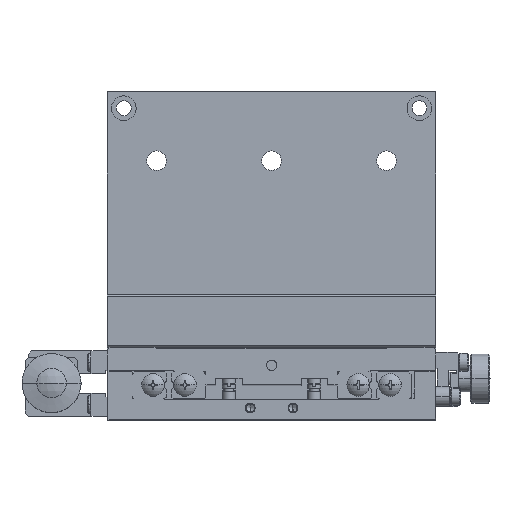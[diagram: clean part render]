
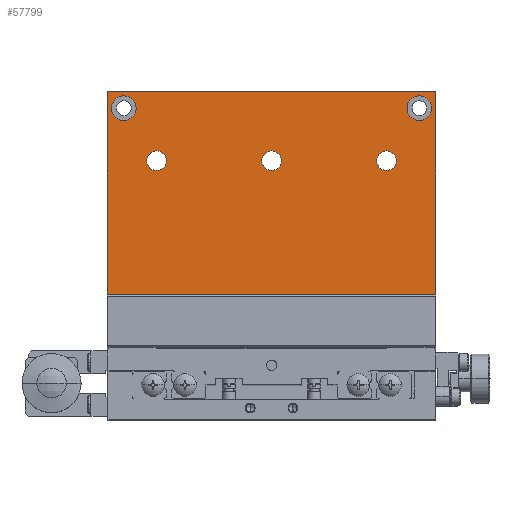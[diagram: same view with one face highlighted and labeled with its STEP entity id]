
A CAD part, top view. The second image highlights one B-rep face of the part: STEP entity #57799.
In plain terms, the highlighted planar face has unit normal (0, 0, 1) as drawn and (0, 1, 0) by its records, which use the part's own axes.
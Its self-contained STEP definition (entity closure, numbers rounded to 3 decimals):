
#79 = EDGE_CURVE ( 'NONE', #59533, #59516, #41371, .T. ) ;
#198 = VERTEX_POINT ( 'NONE', #41610 ) ;
#202 = EDGE_CURVE ( 'NONE', #198, #59000, #41603, .T. ) ;
#6496 = EDGE_CURVE ( 'NONE', #6587, #6685, #13323, .T. ) ;
#6587 = VERTEX_POINT ( 'NONE', #13498 ) ;
#6685 = VERTEX_POINT ( 'NONE', #13672 ) ;
#7025 = VERTEX_POINT ( 'NONE', #14294 ) ;
#7050 = VERTEX_POINT ( 'NONE', #14320 ) ;
#7099 = VERTEX_POINT ( 'NONE', #14412 ) ;
#7115 = VERTEX_POINT ( 'NONE', #14455 ) ;
#7149 = EDGE_CURVE ( 'NONE', #7050, #7025, #14524, .T. ) ;
#7176 = EDGE_CURVE ( 'NONE', #7115, #7099, #14590, .T. ) ;
#7342 = EDGE_CURVE ( 'NONE', #7343, #7411, #14921, .T. ) ;
#7343 = VERTEX_POINT ( 'NONE', #14916 ) ;
#7379 = EDGE_CURVE ( 'NONE', #7487, #7484, #14979, .T. ) ;
#7411 = VERTEX_POINT ( 'NONE', #15043 ) ;
#7484 = VERTEX_POINT ( 'NONE', #15176 ) ;
#7487 = VERTEX_POINT ( 'NONE', #15178 ) ;
#13319 = DIRECTION ( 'NONE',  ( -1., 0., 0. ) ) ;
#13320 = DIRECTION ( 'NONE',  ( 0., -1., 0. ) ) ;
#13321 = CARTESIAN_POINT ( 'NONE',  ( 35., 0., -59. ) ) ;
#13322 = AXIS2_PLACEMENT_3D ( 'NONE', #13321, #13320, #13319 ) ;
#13323 = CIRCLE ( 'NONE', #13322, 3. ) ;
#13498 = CARTESIAN_POINT ( 'NONE',  ( 38., 0., -59. ) ) ;
#13672 = CARTESIAN_POINT ( 'NONE',  ( 32., 0., -59. ) ) ;
#14294 = CARTESIAN_POINT ( 'NONE',  ( 41.25, 0., -75. ) ) ;
#14320 = CARTESIAN_POINT ( 'NONE',  ( 48.75, 0., -75. ) ) ;
#14412 = CARTESIAN_POINT ( 'NONE',  ( -48.75, 0., -75. ) ) ;
#14455 = CARTESIAN_POINT ( 'NONE',  ( -41.25, 0., -75. ) ) ;
#14520 = DIRECTION ( 'NONE',  ( -1., 0., 0. ) ) ;
#14521 = DIRECTION ( 'NONE',  ( 0., -1., 0. ) ) ;
#14522 = CARTESIAN_POINT ( 'NONE',  ( 45., 0., -75. ) ) ;
#14523 = AXIS2_PLACEMENT_3D ( 'NONE', #14522, #14521, #14520 ) ;
#14524 = CIRCLE ( 'NONE', #14523, 3.75 ) ;
#14586 = DIRECTION ( 'NONE',  ( -1., 0., 0. ) ) ;
#14587 = DIRECTION ( 'NONE',  ( 0., -1., 0. ) ) ;
#14588 = CARTESIAN_POINT ( 'NONE',  ( -45., 0., -75. ) ) ;
#14589 = AXIS2_PLACEMENT_3D ( 'NONE', #14588, #14587, #14586 ) ;
#14590 = CIRCLE ( 'NONE', #14589, 3.75 ) ;
#14916 = CARTESIAN_POINT ( 'NONE',  ( 3., 0., -59. ) ) ;
#14917 = DIRECTION ( 'NONE',  ( -1., 0., 0. ) ) ;
#14918 = DIRECTION ( 'NONE',  ( 0., -1., 0. ) ) ;
#14919 = CARTESIAN_POINT ( 'NONE',  ( 0., 0., -59. ) ) ;
#14920 = AXIS2_PLACEMENT_3D ( 'NONE', #14919, #14918, #14917 ) ;
#14921 = CIRCLE ( 'NONE', #14920, 3. ) ;
#14975 = DIRECTION ( 'NONE',  ( -1., 0., 0. ) ) ;
#14976 = DIRECTION ( 'NONE',  ( 0., -1., 0. ) ) ;
#14977 = CARTESIAN_POINT ( 'NONE',  ( -35., 0., -59. ) ) ;
#14978 = AXIS2_PLACEMENT_3D ( 'NONE', #14977, #14976, #14975 ) ;
#14979 = CIRCLE ( 'NONE', #14978, 3. ) ;
#15043 = CARTESIAN_POINT ( 'NONE',  ( -3., 0., -59. ) ) ;
#15176 = CARTESIAN_POINT ( 'NONE',  ( -38., 0., -59. ) ) ;
#15178 = CARTESIAN_POINT ( 'NONE',  ( -32., 0., -59. ) ) ;
#37282 = DIRECTION ( 'NONE',  ( -1., 0., 0. ) ) ;
#37283 = DIRECTION ( 'NONE',  ( 0., -1., 0. ) ) ;
#37284 = CARTESIAN_POINT ( 'NONE',  ( -45., 0., -75. ) ) ;
#37285 = AXIS2_PLACEMENT_3D ( 'NONE', #37284, #37283, #37282 ) ;
#37286 = CIRCLE ( 'NONE', #37285, 3.75 ) ;
#37313 = DIRECTION ( 'NONE',  ( 0., 0., 1. ) ) ;
#37314 = DIRECTION ( 'NONE',  ( 0., 1., 0. ) ) ;
#37315 = CARTESIAN_POINT ( 'NONE',  ( 50., 0., -80. ) ) ;
#37316 = AXIS2_PLACEMENT_3D ( 'NONE', #37315, #37314, #37313 ) ;
#37317 = PLANE ( 'NONE',  #37316 ) ;
#37318 = FACE_OUTER_BOUND ( 'NONE', #57886, .T. ) ;
#37319 = FACE_BOUND ( 'NONE', #57781, .T. ) ;
#37320 = FACE_BOUND ( 'NONE', #57852, .T. ) ;
#37321 = FACE_BOUND ( 'NONE', #57842, .T. ) ;
#37322 = FACE_BOUND ( 'NONE', #57815, .T. ) ;
#37323 = FACE_BOUND ( 'NONE', #57801, .T. ) ;
#37354 = DIRECTION ( 'NONE',  ( -1., 0., 0. ) ) ;
#37355 = DIRECTION ( 'NONE',  ( 0., -1., 0. ) ) ;
#37356 = CARTESIAN_POINT ( 'NONE',  ( -35., 0., -59. ) ) ;
#37357 = AXIS2_PLACEMENT_3D ( 'NONE', #37356, #37355, #37354 ) ;
#37358 = CIRCLE ( 'NONE', #37357, 3. ) ;
#37369 = CARTESIAN_POINT ( 'NONE',  ( 0., 0., -59. ) ) ;
#37370 = AXIS2_PLACEMENT_3D ( 'NONE', #37369, #37430, #37429 ) ;
#37371 = CIRCLE ( 'NONE', #37370, 3. ) ;
#37397 = DIRECTION ( 'NONE',  ( -1., 0., 0. ) ) ;
#37398 = VECTOR ( 'NONE', #37397, 1000. ) ;
#37399 = CARTESIAN_POINT ( 'NONE',  ( 50., 0., -80. ) ) ;
#37400 = LINE ( 'NONE', #37399, #37398 ) ;
#37405 = DIRECTION ( 'NONE',  ( -1., 0., 0. ) ) ;
#37406 = DIRECTION ( 'NONE',  ( 0., -1., 0. ) ) ;
#37407 = CARTESIAN_POINT ( 'NONE',  ( 45., 0., -75. ) ) ;
#37408 = AXIS2_PLACEMENT_3D ( 'NONE', #37407, #37406, #37405 ) ;
#37409 = CIRCLE ( 'NONE', #37408, 3.75 ) ;
#37415 = DIRECTION ( 'NONE',  ( -1., 0., 0. ) ) ;
#37416 = DIRECTION ( 'NONE',  ( 0., -1., 0. ) ) ;
#37417 = CARTESIAN_POINT ( 'NONE',  ( 35., 0., -59. ) ) ;
#37418 = AXIS2_PLACEMENT_3D ( 'NONE', #37417, #37416, #37415 ) ;
#37419 = CIRCLE ( 'NONE', #37418, 3. ) ;
#37429 = DIRECTION ( 'NONE',  ( -1., 0., 0. ) ) ;
#37430 = DIRECTION ( 'NONE',  ( 0., -1., 0. ) ) ;
#39339 = CARTESIAN_POINT ( 'NONE',  ( 50., 0., -18. ) ) ;
#40127 = CARTESIAN_POINT ( 'NONE',  ( -50., 0., -18. ) ) ;
#40162 = CARTESIAN_POINT ( 'NONE',  ( -50., 0., -80. ) ) ;
#40229 = DIRECTION ( 'NONE',  ( 1., 0., 0. ) ) ;
#40230 = VECTOR ( 'NONE', #40229, 1000. ) ;
#40231 = CARTESIAN_POINT ( 'NONE',  ( -50., 0., -18. ) ) ;
#40232 = LINE ( 'NONE', #40231, #40230 ) ;
#41368 = DIRECTION ( 'NONE',  ( 0., 0., 1. ) ) ;
#41369 = VECTOR ( 'NONE', #41368, 1000. ) ;
#41370 = CARTESIAN_POINT ( 'NONE',  ( -50., 0., -80. ) ) ;
#41371 = LINE ( 'NONE', #41370, #41369 ) ;
#41600 = DIRECTION ( 'NONE',  ( 0., 0., 1. ) ) ;
#41601 = VECTOR ( 'NONE', #41600, 1000. ) ;
#41602 = CARTESIAN_POINT ( 'NONE',  ( 50., 0., -80. ) ) ;
#41603 = LINE ( 'NONE', #41602, #41601 ) ;
#41610 = CARTESIAN_POINT ( 'NONE',  ( 50., 0., -80. ) ) ;
#57779 = ORIENTED_EDGE ( 'NONE', *, *, #7149, .T. ) ;
#57781 = EDGE_LOOP ( 'NONE', ( #57783, #57885 ) ) ;
#57783 = ORIENTED_EDGE ( 'NONE', *, *, #57784, .T. ) ;
#57784 = EDGE_CURVE ( 'NONE', #7099, #7115, #37286, .T. ) ;
#57799 = ADVANCED_FACE ( 'NONE', ( #37323, #37322, #37321, #37320, #37319, #37318 ), #37317, .T. ) ;
#57801 = EDGE_LOOP ( 'NONE', ( #57806, #57810 ) ) ;
#57806 = ORIENTED_EDGE ( 'NONE', *, *, #7379, .T. ) ;
#57810 = ORIENTED_EDGE ( 'NONE', *, *, #57812, .T. ) ;
#57812 = EDGE_CURVE ( 'NONE', #7484, #7487, #37358, .T. ) ;
#57815 = EDGE_LOOP ( 'NONE', ( #57835, #57838 ) ) ;
#57818 = ORIENTED_EDGE ( 'NONE', *, *, #57821, .T. ) ;
#57821 = EDGE_CURVE ( 'NONE', #198, #59533, #37400, .T. ) ;
#57835 = ORIENTED_EDGE ( 'NONE', *, *, #7342, .T. ) ;
#57838 = ORIENTED_EDGE ( 'NONE', *, *, #57839, .T. ) ;
#57839 = EDGE_CURVE ( 'NONE', #7411, #7343, #37371, .T. ) ;
#57842 = EDGE_LOOP ( 'NONE', ( #57846, #57848 ) ) ;
#57846 = ORIENTED_EDGE ( 'NONE', *, *, #6496, .T. ) ;
#57848 = ORIENTED_EDGE ( 'NONE', *, *, #57850, .T. ) ;
#57850 = EDGE_CURVE ( 'NONE', #6685, #6587, #37419, .T. ) ;
#57852 = EDGE_LOOP ( 'NONE', ( #57854, #57779 ) ) ;
#57854 = ORIENTED_EDGE ( 'NONE', *, *, #57856, .T. ) ;
#57856 = EDGE_CURVE ( 'NONE', #7025, #7050, #37409, .T. ) ;
#57885 = ORIENTED_EDGE ( 'NONE', *, *, #7176, .T. ) ;
#57886 = EDGE_LOOP ( 'NONE', ( #57889, #57894, #57896, #57818 ) ) ;
#57889 = ORIENTED_EDGE ( 'NONE', *, *, #79, .T. ) ;
#57894 = ORIENTED_EDGE ( 'NONE', *, *, #59572, .T. ) ;
#57896 = ORIENTED_EDGE ( 'NONE', *, *, #202, .F. ) ;
#59000 = VERTEX_POINT ( 'NONE', #39339 ) ;
#59516 = VERTEX_POINT ( 'NONE', #40127 ) ;
#59533 = VERTEX_POINT ( 'NONE', #40162 ) ;
#59572 = EDGE_CURVE ( 'NONE', #59516, #59000, #40232, .T. ) ;
